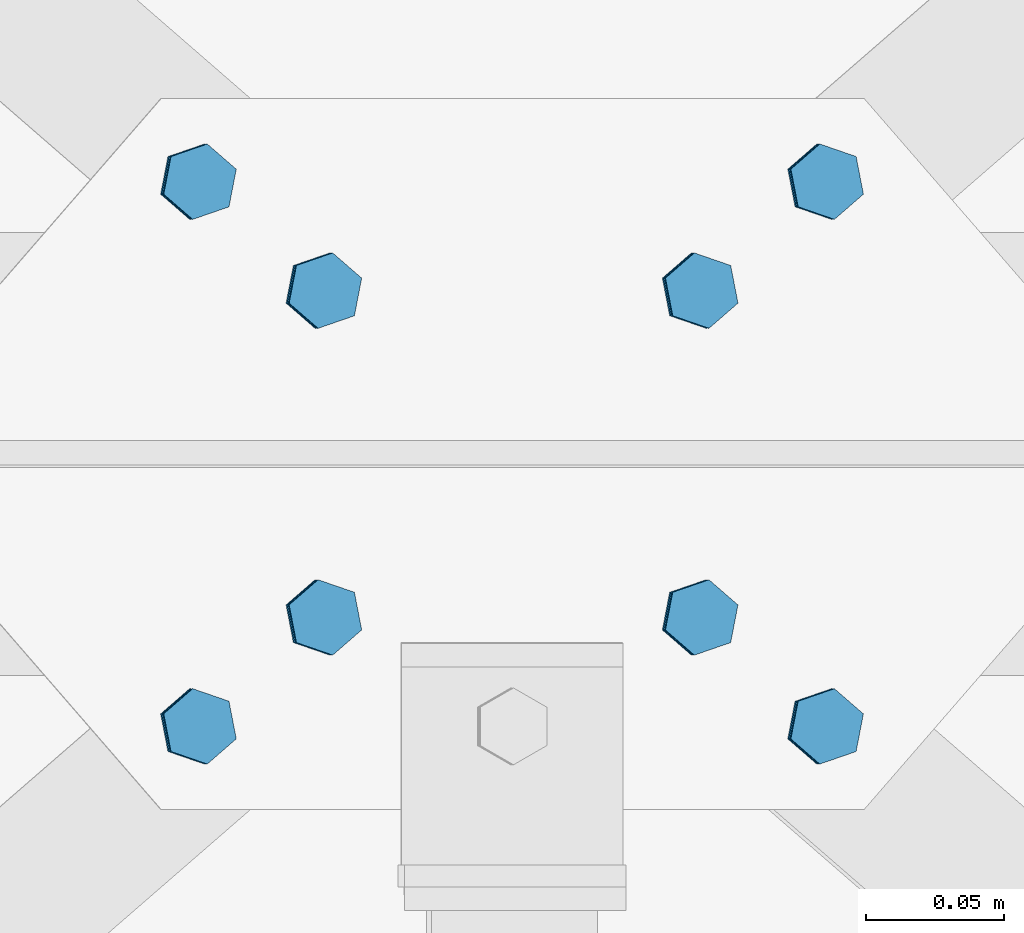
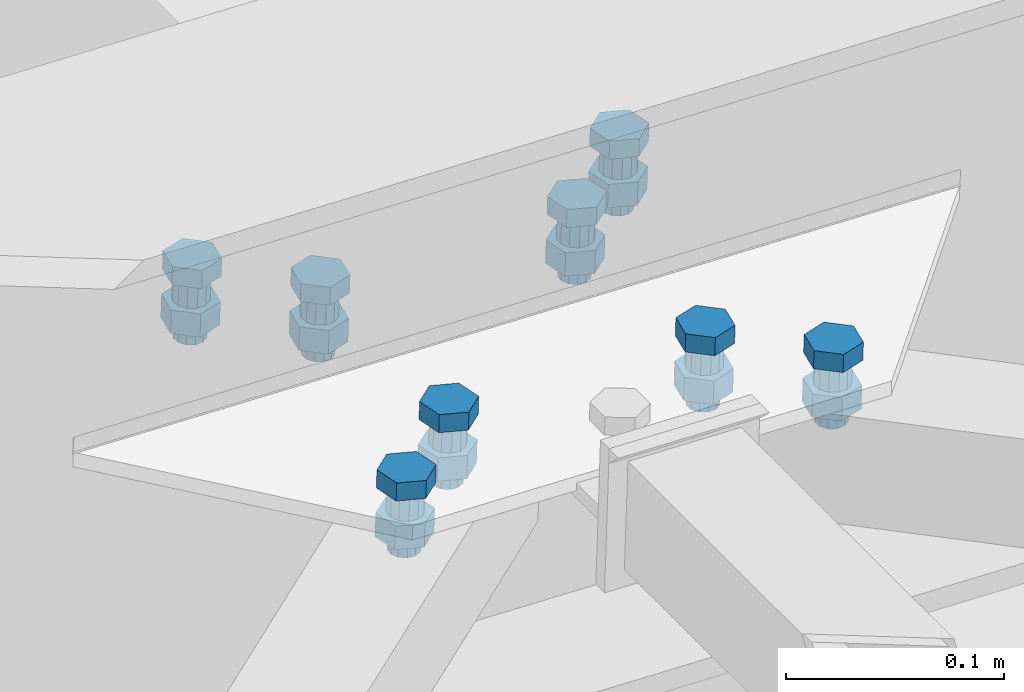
# One storey, part 230 of 3134: 4 mechanical fasteners, 4 elements without a shape of their own.
"""IFC2X3 building model written with IfcOpenShell, lengths in millimetres."""

from ifc_helpers import new_model, si_unit, frame, origin_with_axes, place, context, subcontext, project, spatial, faceted_brep, source, transform, mapped, material, type_object, element, aggregate, save


model = new_model("IFC2X3")

# Units and contexts
model_context = context("Model", 3, precision=1e-05, world=origin_with_axes())
body_context = subcontext(model_context, "Body", "Model", "MODEL_VIEW")
ifc_project = project(units=[si_unit("LENGTHUNIT", "METRE", prefix="MILLI"), si_unit("AREAUNIT", "SQUARE_METRE"), si_unit("VOLUMEUNIT", "CUBIC_METRE"), si_unit("MASSUNIT", "GRAM", prefix="KILO"), si_unit("TIMEUNIT", "SECOND"), si_unit("PLANEANGLEUNIT", "RADIAN"), si_unit("SOLIDANGLEUNIT", "STERADIAN"), si_unit("THERMODYNAMICTEMPERATUREUNIT", "DEGREE_CELSIUS"), si_unit("LUMINOUSINTENSITYUNIT", "LUMEN")], contexts=[model_context])

# Site, building, storey
site_placement = place(None, origin_with_axes())
site = spatial("IfcSite", under=ifc_project, at=site_placement, CompositionType="ELEMENT")
building_placement = place(site_placement, origin_with_axes())
building = spatial("IfcBuilding", under=site, at=building_placement, Name="Undefined", CompositionType="ELEMENT")
storey_placement = place(building_placement, origin_with_axes())
storey = spatial("IfcBuildingStorey", under=building, at=storey_placement, Name="Undefined", CompositionType="ELEMENT", Elevation=0.0)

# Assembly, mechanical fastener
assembly_1_placement = place(storey_placement, origin_with_axes())
assembly_1 = element("IfcElementAssembly", 1, at=assembly_1_placement, inside=storey, AssemblyPlace="NOTDEFINED", PredefinedType="RIGID_FRAME")
ifc_material = material(Name="8.8")
mechanical_fastener_type = type_object("IfcMechanicalFastenerType", Name="Bolt assembly")
shared_shape_1 = source(origin_with_axes(), body_context, "Body", "Brep", [
    faceted_brep([(13.856406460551, -14.0, 0.0), (6.92820323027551, -14.0, 12.0), (-6.92820323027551, -14.0, 12.0), (-13.856406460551, -14.0, 1.69692038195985e-15), (-6.92820323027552, -14.0, -12.0), (6.9282032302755, -14.0, -12.0), (6.9282032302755, -4.00000145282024, -12.0), (-6.92820323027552, -4.00000145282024, -12.0), (-13.856406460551, -4.00000145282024, 1.69692038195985e-15), (-6.92820323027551, -4.00000145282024, 12.0), (6.92820323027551, -4.00000145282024, 12.0), (13.856406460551, -4.00000145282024, 0.0), (8.0, -4.00000145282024, 0.0), (6.92820323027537, -4.00000145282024, 4.00000000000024), (3.99999999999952, -4.00000145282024, 6.92820323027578), (-8.29068785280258e-13, -4.00000145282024, 8.0), (-4.00000000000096, -4.00000145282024, 6.92820323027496), (-6.9282032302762, -4.00000145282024, 3.99999999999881), (-8.0, -4.00000145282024, -1.65813757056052e-12), (-6.92820323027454, -4.00000145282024, -4.00000000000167), (-3.99999999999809, -4.00000145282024, -6.92820323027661), (2.47832457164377e-12, -4.00000145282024, -8.0), (4.00000000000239, -4.00000145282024, -6.92820323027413), (6.92820323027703, -4.00000145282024, -3.99999999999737), (6.92820323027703, 31.0, -3.99999999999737), (4.00000000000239, 31.0, -6.92820323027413), (2.47832457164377e-12, 31.0, -8.0), (-3.99999999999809, 31.0, -6.92820323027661), (-6.92820323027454, 31.0, -4.00000000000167), (-8.0, 31.0, -1.65813757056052e-12), (-6.9282032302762, 31.0, 3.99999999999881), (-4.00000000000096, 31.0, 6.92820323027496), (-8.29068785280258e-13, 31.0, 8.0), (3.99999999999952, 31.0, 6.92820323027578), (6.92820323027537, 31.0, 4.00000000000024), (8.0, 31.0, 0.0), (13.856406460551, 9.99937456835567, 0.0), (6.92820323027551, 9.99937456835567, 12.0), (-6.92820323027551, 9.99937456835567, 12.0), (-13.856406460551, 9.99937456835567, 1.69692038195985e-15), (-6.92820323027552, 9.99937456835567, -12.0), (6.9282032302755, 9.99937456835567, -12.0), (6.9282032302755, 22.9993745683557, -12.0), (-6.92820323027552, 22.9993745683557, -12.0), (-13.856406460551, 22.9993745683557, 1.69692038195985e-15), (-6.92820323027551, 22.9993745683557, 12.0), (6.92820323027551, 22.9993745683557, 12.0), (13.856406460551, 22.9993745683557, 0.0)], [[[0, 1, 2, 3, 4, 5]], [[6, 7, 8, 9, 10, 11]], [[0, 11, 10, 1]], [[1, 10, 9, 2]], [[2, 9, 8, 3]], [[3, 8, 7, 4]], [[4, 7, 6, 5]], [[5, 6, 11, 0]], [[12, 13, 14, 15, 16, 17, 18, 19, 20, 21, 22, 23]], [[24, 25, 26, 27, 28, 29, 30, 31, 32, 33, 34, 35]], [[12, 35, 34, 13]], [[13, 34, 33, 14]], [[14, 33, 32, 15]], [[15, 32, 31, 16]], [[16, 31, 30, 17]], [[17, 30, 29, 18]], [[18, 29, 28, 19]], [[19, 28, 27, 20]], [[20, 27, 26, 21]], [[21, 26, 25, 22]], [[22, 25, 24, 23]], [[23, 24, 35, 12]], [[36, 37, 38, 39, 40, 41]], [[42, 43, 44, 45, 46, 47]], [[36, 47, 46, 37]], [[37, 46, 45, 38]], [[38, 45, 44, 39]], [[39, 44, 43, 40]], [[40, 43, 42, 41]], [[41, 42, 47, 36]]]),
    faceted_brep([(9.0, -3.9, 0.0), (7.79422863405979, -3.9, 4.50000000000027), (4.49999999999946, -3.9, 7.79422863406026), (-9.3270238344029e-13, -3.9, 9.0), (-4.50000000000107, -3.9, 7.79422863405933), (-7.79422863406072, -3.9, 4.49999999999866), (-9.0, -3.9, -1.86540476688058e-12), (-7.79422863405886, -3.9, -4.50000000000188), (-4.49999999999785, -3.9, -7.79422863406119), (2.78811514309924e-12, -3.9, -9.0), (4.50000000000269, -3.9, -7.7942286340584), (7.79422863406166, -3.9, -4.49999999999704), (7.79422863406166, 4.09999854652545, -4.49999999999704), (4.50000000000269, 4.09999854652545, -7.7942286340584), (2.78811514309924e-12, 4.09999854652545, -9.0), (-4.49999999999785, 4.09999854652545, -7.79422863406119), (-7.79422863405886, 4.09999854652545, -4.50000000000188), (-9.0, 4.09999854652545, -1.86540476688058e-12), (-7.79422863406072, 4.09999854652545, 4.49999999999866), (-4.50000000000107, 4.09999854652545, 7.79422863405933), (-9.3270238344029e-13, 4.09999854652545, 9.0), (4.49999999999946, 4.09999854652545, 7.79422863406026), (7.79422863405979, 4.09999854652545, 4.50000000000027), (9.0, 4.09999854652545, 0.0), (9.0, 3.89937456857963, 0.0), (7.79422863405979, 3.89937456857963, 4.50000000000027), (4.49999999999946, 3.89937456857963, 7.79422863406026), (-9.3270238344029e-13, 3.89937456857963, 9.0), (-4.50000000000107, 3.89937456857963, 7.79422863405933), (-7.79422863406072, 3.89937456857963, 4.49999999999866), (-9.0, 3.89937456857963, -1.86540476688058e-12), (-7.79422863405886, 3.89937456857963, -4.50000000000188), (-4.49999999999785, 3.89937456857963, -7.79422863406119), (2.78811514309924e-12, 3.89937456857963, -9.0), (4.50000000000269, 3.89937456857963, -7.7942286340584), (7.79422863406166, 3.89937456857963, -4.49999999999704), (7.79422863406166, 9.99937456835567, -4.49999999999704), (4.50000000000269, 9.99937456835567, -7.7942286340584), (2.78811514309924e-12, 9.99937456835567, -9.0), (-4.49999999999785, 9.99937456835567, -7.79422863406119), (-7.79422863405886, 9.99937456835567, -4.50000000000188), (-9.0, 9.99937456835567, -1.86540476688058e-12), (-7.79422863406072, 9.99937456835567, 4.49999999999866), (-4.50000000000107, 9.99937456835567, 7.79422863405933), (-9.3270238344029e-13, 9.99937456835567, 9.0), (4.49999999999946, 9.99937456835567, 7.79422863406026), (7.79422863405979, 9.99937456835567, 4.50000000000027), (9.0, 9.99937456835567, 0.0)], [[[0, 1, 2, 3, 4, 5, 6, 7, 8, 9, 10, 11]], [[12, 13, 14, 15, 16, 17, 18, 19, 20, 21, 22, 23]], [[0, 23, 22, 1]], [[1, 22, 21, 2]], [[2, 21, 20, 3]], [[3, 20, 19, 4]], [[4, 19, 18, 5]], [[5, 18, 17, 6]], [[6, 17, 16, 7]], [[7, 16, 15, 8]], [[8, 15, 14, 9]], [[9, 14, 13, 10]], [[10, 13, 12, 11]], [[11, 12, 23, 0]], [[24, 25, 26, 27, 28, 29, 30, 31, 32, 33, 34, 35]], [[36, 37, 38, 39, 40, 41, 42, 43, 44, 45, 46, 47]], [[24, 47, 46, 25]], [[25, 46, 45, 26]], [[26, 45, 44, 27]], [[27, 44, 43, 28]], [[28, 43, 42, 29]], [[29, 42, 41, 30]], [[30, 41, 40, 31]], [[31, 40, 39, 32]], [[32, 39, 38, 33]], [[33, 38, 37, 34]], [[34, 37, 36, 35]], [[35, 36, 47, 24]]]),
])
mechanical_fastener_1_placement = place(assembly_1_placement, frame((29474.4583795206, 52591.6643115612, 10125.3249286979), z_axis=(-0.655256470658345, -0.755133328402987, 0.0203129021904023), x_axis=(-0.754770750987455, 0.655571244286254, 0.0233978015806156)))
mechanical_fastener_1 = element("IfcMechanicalFastener", 2, at=mechanical_fastener_1_placement, type_object=mechanical_fastener_type, material=ifc_material, Name="Bolt assembly", NominalDiameter=16.0, NominalLength=35.0, context=body_context, shape_type="MappedRepresentation", body=[
    mapped(shared_shape_1, transform((0.0, 0.0, 0.0))),
    mapped(shared_shape_1, transform((59.9999999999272, 0.0, 5.40239852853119e-10))),
])
aggregate(assembly_1, [mechanical_fastener_1])

assembly_2_placement = place(storey_placement, origin_with_axes())
assembly_2 = element("IfcElementAssembly", 3, at=assembly_2_placement, inside=storey, AssemblyPlace="NOTDEFINED", PredefinedType="RIGID_FRAME")
shared_shape_2 = source(origin_with_axes(), body_context, "Body", "Brep", [
    faceted_brep([(13.856406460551, -14.0, 0.0), (6.92820323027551, -14.0, 12.0), (-6.92820323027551, -14.0, 12.0), (-13.856406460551, -14.0, 1.69692038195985e-15), (-6.92820323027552, -14.0, -12.0), (6.9282032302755, -14.0, -12.0), (6.9282032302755, -4.00000145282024, -12.0), (-6.92820323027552, -4.00000145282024, -12.0), (-13.856406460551, -4.00000145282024, 1.69692038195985e-15), (-6.92820323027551, -4.00000145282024, 12.0), (6.92820323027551, -4.00000145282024, 12.0), (13.856406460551, -4.00000145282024, 0.0), (8.0, -4.00000145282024, 0.0), (6.92820323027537, -4.00000145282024, 4.00000000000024), (3.99999999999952, -4.00000145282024, 6.92820323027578), (-8.29068785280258e-13, -4.00000145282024, 8.0), (-4.00000000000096, -4.00000145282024, 6.92820323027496), (-6.9282032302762, -4.00000145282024, 3.99999999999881), (-8.0, -4.00000145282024, -1.65813757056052e-12), (-6.92820323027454, -4.00000145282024, -4.00000000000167), (-3.99999999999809, -4.00000145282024, -6.92820323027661), (2.47832457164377e-12, -4.00000145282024, -8.0), (4.00000000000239, -4.00000145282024, -6.92820323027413), (6.92820323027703, -4.00000145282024, -3.99999999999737), (6.92820323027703, 31.0, -3.99999999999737), (4.00000000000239, 31.0, -6.92820323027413), (2.47832457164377e-12, 31.0, -8.0), (-3.99999999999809, 31.0, -6.92820323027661), (-6.92820323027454, 31.0, -4.00000000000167), (-8.0, 31.0, -1.65813757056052e-12), (-6.9282032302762, 31.0, 3.99999999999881), (-4.00000000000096, 31.0, 6.92820323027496), (-8.29068785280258e-13, 31.0, 8.0), (3.99999999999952, 31.0, 6.92820323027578), (6.92820323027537, 31.0, 4.00000000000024), (8.0, 31.0, 0.0), (13.856406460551, 9.99901118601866, 0.0), (6.92820323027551, 9.99901118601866, 12.0), (-6.92820323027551, 9.99901118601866, 12.0), (-13.856406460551, 9.99901118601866, 1.69692038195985e-15), (-6.92820323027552, 9.99901118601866, -12.0), (6.9282032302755, 9.99901118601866, -12.0), (6.9282032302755, 22.9990111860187, -12.0), (-6.92820323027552, 22.9990111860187, -12.0), (-13.856406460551, 22.9990111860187, 1.69692038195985e-15), (-6.92820323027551, 22.9990111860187, 12.0), (6.92820323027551, 22.9990111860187, 12.0), (13.856406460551, 22.9990111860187, 0.0)], [[[0, 1, 2, 3, 4, 5]], [[6, 7, 8, 9, 10, 11]], [[0, 11, 10, 1]], [[1, 10, 9, 2]], [[2, 9, 8, 3]], [[3, 8, 7, 4]], [[4, 7, 6, 5]], [[5, 6, 11, 0]], [[12, 13, 14, 15, 16, 17, 18, 19, 20, 21, 22, 23]], [[24, 25, 26, 27, 28, 29, 30, 31, 32, 33, 34, 35]], [[12, 35, 34, 13]], [[13, 34, 33, 14]], [[14, 33, 32, 15]], [[15, 32, 31, 16]], [[16, 31, 30, 17]], [[17, 30, 29, 18]], [[18, 29, 28, 19]], [[19, 28, 27, 20]], [[20, 27, 26, 21]], [[21, 26, 25, 22]], [[22, 25, 24, 23]], [[23, 24, 35, 12]], [[36, 37, 38, 39, 40, 41]], [[42, 43, 44, 45, 46, 47]], [[36, 47, 46, 37]], [[37, 46, 45, 38]], [[38, 45, 44, 39]], [[39, 44, 43, 40]], [[40, 43, 42, 41]], [[41, 42, 47, 36]]]),
    faceted_brep([(9.0, -3.9, 0.0), (7.79422863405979, -3.9, 4.50000000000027), (4.49999999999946, -3.9, 7.79422863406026), (-9.3270238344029e-13, -3.9, 9.0), (-4.50000000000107, -3.9, 7.79422863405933), (-7.79422863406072, -3.9, 4.49999999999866), (-9.0, -3.9, -1.86540476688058e-12), (-7.79422863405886, -3.9, -4.50000000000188), (-4.49999999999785, -3.9, -7.79422863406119), (2.78811514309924e-12, -3.9, -9.0), (4.50000000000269, -3.9, -7.7942286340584), (7.79422863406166, -3.9, -4.49999999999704), (7.79422863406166, 4.09999854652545, -4.49999999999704), (4.50000000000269, 4.09999854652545, -7.7942286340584), (2.78811514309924e-12, 4.09999854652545, -9.0), (-4.49999999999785, 4.09999854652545, -7.79422863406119), (-7.79422863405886, 4.09999854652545, -4.50000000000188), (-9.0, 4.09999854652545, -1.86540476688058e-12), (-7.79422863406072, 4.09999854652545, 4.49999999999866), (-4.50000000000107, 4.09999854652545, 7.79422863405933), (-9.3270238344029e-13, 4.09999854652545, 9.0), (4.49999999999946, 4.09999854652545, 7.79422863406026), (7.79422863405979, 4.09999854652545, 4.50000000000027), (9.0, 4.09999854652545, 0.0), (9.0, 3.8990111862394, 0.0), (7.79422863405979, 3.8990111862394, 4.50000000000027), (4.49999999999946, 3.8990111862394, 7.79422863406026), (-9.3270238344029e-13, 3.8990111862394, 9.0), (-4.50000000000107, 3.8990111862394, 7.79422863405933), (-7.79422863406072, 3.8990111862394, 4.49999999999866), (-9.0, 3.8990111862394, -1.86540476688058e-12), (-7.79422863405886, 3.8990111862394, -4.50000000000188), (-4.49999999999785, 3.8990111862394, -7.79422863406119), (2.78811514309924e-12, 3.8990111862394, -9.0), (4.50000000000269, 3.8990111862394, -7.7942286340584), (7.79422863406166, 3.8990111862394, -4.49999999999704), (7.79422863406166, 9.99901118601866, -4.49999999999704), (4.50000000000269, 9.99901118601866, -7.7942286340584), (2.78811514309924e-12, 9.99901118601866, -9.0), (-4.49999999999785, 9.99901118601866, -7.79422863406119), (-7.79422863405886, 9.99901118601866, -4.50000000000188), (-9.0, 9.99901118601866, -1.86540476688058e-12), (-7.79422863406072, 9.99901118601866, 4.49999999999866), (-4.50000000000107, 9.99901118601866, 7.79422863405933), (-9.3270238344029e-13, 9.99901118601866, 9.0), (4.49999999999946, 9.99901118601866, 7.79422863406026), (7.79422863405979, 9.99901118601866, 4.50000000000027), (9.0, 9.99901118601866, 0.0)], [[[0, 1, 2, 3, 4, 5, 6, 7, 8, 9, 10, 11]], [[12, 13, 14, 15, 16, 17, 18, 19, 20, 21, 22, 23]], [[0, 23, 22, 1]], [[1, 22, 21, 2]], [[2, 21, 20, 3]], [[3, 20, 19, 4]], [[4, 19, 18, 5]], [[5, 18, 17, 6]], [[6, 17, 16, 7]], [[7, 16, 15, 8]], [[8, 15, 14, 9]], [[9, 14, 13, 10]], [[10, 13, 12, 11]], [[11, 12, 23, 0]], [[24, 25, 26, 27, 28, 29, 30, 31, 32, 33, 34, 35]], [[36, 37, 38, 39, 40, 41, 42, 43, 44, 45, 46, 47]], [[24, 47, 46, 25]], [[25, 46, 45, 26]], [[26, 45, 44, 27]], [[27, 44, 43, 28]], [[28, 43, 42, 29]], [[29, 42, 41, 30]], [[30, 41, 40, 31]], [[31, 40, 39, 32]], [[32, 39, 38, 33]], [[33, 38, 37, 34]], [[34, 37, 36, 35]], [[35, 36, 47, 24]]]),
])
mechanical_fastener_2_placement = place(assembly_2_placement, frame((29248.0296353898, 52591.6729792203, 10132.3442197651), z_axis=(-0.655246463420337, 0.755142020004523, 0.0203126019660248), x_axis=(0.754779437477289, 0.655561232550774, -0.0233981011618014)))
mechanical_fastener_2 = element("IfcMechanicalFastener", 4, at=mechanical_fastener_2_placement, type_object=mechanical_fastener_type, material=ifc_material, Name="Bolt assembly", NominalDiameter=16.0, NominalLength=35.0, context=body_context, shape_type="MappedRepresentation", body=[
    mapped(shared_shape_2, transform((0.0, 0.0, 0.0))),
    mapped(shared_shape_2, transform((59.9999999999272, 0.0, 5.40239852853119e-10))),
])
aggregate(assembly_2, [mechanical_fastener_2])

assembly_3_placement = place(storey_placement, origin_with_axes())
assembly_3 = element("IfcElementAssembly", 5, at=assembly_3_placement, inside=storey, AssemblyPlace="NOTDEFINED", PredefinedType="RIGID_FRAME")
shared_shape_3 = source(origin_with_axes(), body_context, "Body", "Brep", [
    faceted_brep([(13.856406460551, -14.0, 0.0), (6.92820323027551, -14.0, 12.0), (-6.92820323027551, -14.0, 12.0), (-13.856406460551, -14.0, 1.69692038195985e-15), (-6.92820323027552, -14.0, -12.0), (6.9282032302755, -14.0, -12.0), (6.9282032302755, -4.00000145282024, -12.0), (-6.92820323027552, -4.00000145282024, -12.0), (-13.856406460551, -4.00000145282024, 1.69692038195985e-15), (-6.92820323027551, -4.00000145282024, 12.0), (6.92820323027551, -4.00000145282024, 12.0), (13.856406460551, -4.00000145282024, 0.0), (8.0, -4.00000145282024, 0.0), (6.92820323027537, -4.00000145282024, 4.00000000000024), (3.99999999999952, -4.00000145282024, 6.92820323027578), (-8.29068785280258e-13, -4.00000145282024, 8.0), (-4.00000000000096, -4.00000145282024, 6.92820323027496), (-6.9282032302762, -4.00000145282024, 3.99999999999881), (-8.0, -4.00000145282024, -1.65813757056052e-12), (-6.92820323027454, -4.00000145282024, -4.00000000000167), (-3.99999999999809, -4.00000145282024, -6.92820323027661), (2.47832457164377e-12, -4.00000145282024, -8.0), (4.00000000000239, -4.00000145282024, -6.92820323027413), (6.92820323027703, -4.00000145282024, -3.99999999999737), (6.92820323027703, 31.0, -3.99999999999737), (4.00000000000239, 31.0, -6.92820323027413), (2.47832457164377e-12, 31.0, -8.0), (-3.99999999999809, 31.0, -6.92820323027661), (-6.92820323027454, 31.0, -4.00000000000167), (-8.0, 31.0, -1.65813757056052e-12), (-6.9282032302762, 31.0, 3.99999999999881), (-4.00000000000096, 31.0, 6.92820323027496), (-8.29068785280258e-13, 31.0, 8.0), (3.99999999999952, 31.0, 6.92820323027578), (6.92820323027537, 31.0, 4.00000000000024), (8.0, 31.0, 0.0), (13.856406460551, 9.99999995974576, 0.0), (6.92820323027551, 9.99999995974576, 12.0), (-6.92820323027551, 9.99999995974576, 12.0), (-13.856406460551, 9.99999995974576, 1.69692038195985e-15), (-6.92820323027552, 9.99999995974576, -12.0), (6.9282032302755, 9.99999995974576, -12.0), (6.9282032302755, 22.9999913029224, -12.0), (-6.92820323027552, 22.9999913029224, -12.0), (-13.856406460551, 22.9999913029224, 1.69692038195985e-15), (-6.92820323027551, 22.9999913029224, 12.0), (6.92820323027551, 22.9999913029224, 12.0), (13.856406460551, 22.9999913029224, 0.0)], [[[0, 1, 2, 3, 4, 5]], [[6, 7, 8, 9, 10, 11]], [[0, 11, 10, 1]], [[1, 10, 9, 2]], [[2, 9, 8, 3]], [[3, 8, 7, 4]], [[4, 7, 6, 5]], [[5, 6, 11, 0]], [[12, 13, 14, 15, 16, 17, 18, 19, 20, 21, 22, 23]], [[24, 25, 26, 27, 28, 29, 30, 31, 32, 33, 34, 35]], [[12, 35, 34, 13]], [[13, 34, 33, 14]], [[14, 33, 32, 15]], [[15, 32, 31, 16]], [[16, 31, 30, 17]], [[17, 30, 29, 18]], [[18, 29, 28, 19]], [[19, 28, 27, 20]], [[20, 27, 26, 21]], [[21, 26, 25, 22]], [[22, 25, 24, 23]], [[23, 24, 35, 12]], [[36, 37, 38, 39, 40, 41]], [[42, 43, 44, 45, 46, 47]], [[36, 47, 46, 37]], [[37, 46, 45, 38]], [[38, 45, 44, 39]], [[39, 44, 43, 40]], [[40, 43, 42, 41]], [[41, 42, 47, 36]]]),
    faceted_brep([(9.0, -3.9, 0.0), (7.79422863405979, -3.9, 4.50000000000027), (4.49999999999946, -3.9, 7.79422863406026), (-9.3270238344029e-13, -3.9, 9.0), (-4.50000000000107, -3.9, 7.79422863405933), (-7.79422863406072, -3.9, 4.49999999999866), (-9.0, -3.9, -1.86540476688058e-12), (-7.79422863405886, -3.9, -4.50000000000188), (-4.49999999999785, -3.9, -7.79422863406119), (2.78811514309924e-12, -3.9, -9.0), (4.50000000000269, -3.9, -7.7942286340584), (7.79422863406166, -3.9, -4.49999999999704), (7.79422863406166, 4.09999854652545, -4.49999999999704), (4.50000000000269, 4.09999854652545, -7.7942286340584), (2.78811514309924e-12, 4.09999854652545, -9.0), (-4.49999999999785, 4.09999854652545, -7.79422863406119), (-7.79422863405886, 4.09999854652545, -4.50000000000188), (-9.0, 4.09999854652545, -1.86540476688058e-12), (-7.79422863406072, 4.09999854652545, 4.49999999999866), (-4.50000000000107, 4.09999854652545, 7.79422863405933), (-9.3270238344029e-13, 4.09999854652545, 9.0), (4.49999999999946, 4.09999854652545, 7.79422863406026), (7.79422863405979, 4.09999854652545, 4.50000000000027), (9.0, 4.09999854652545, 0.0), (9.0, 3.9, 0.0), (7.79422863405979, 3.9, 4.50000000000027), (4.49999999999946, 3.9, 7.79422863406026), (-9.3270238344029e-13, 3.9, 9.0), (-4.50000000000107, 3.9, 7.79422863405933), (-7.79422863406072, 3.9, 4.49999999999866), (-9.0, 3.9, -1.86540476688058e-12), (-7.79422863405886, 3.9, -4.50000000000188), (-4.49999999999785, 3.9, -7.79422863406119), (2.78811514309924e-12, 3.9, -9.0), (4.50000000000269, 3.9, -7.7942286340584), (7.79422863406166, 3.9, -4.49999999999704), (7.79422863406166, 9.99999995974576, -4.49999999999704), (4.50000000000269, 9.99999995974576, -7.7942286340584), (2.78811514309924e-12, 9.99999995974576, -9.0), (-4.49999999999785, 9.99999995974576, -7.79422863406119), (-7.79422863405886, 9.99999995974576, -4.50000000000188), (-9.0, 9.99999995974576, -1.86540476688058e-12), (-7.79422863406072, 9.99999995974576, 4.49999999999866), (-4.50000000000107, 9.99999995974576, 7.79422863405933), (-9.3270238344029e-13, 9.99999995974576, 9.0), (4.49999999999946, 9.99999995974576, 7.79422863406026), (7.79422863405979, 9.99999995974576, 4.50000000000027), (9.0, 9.99999995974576, 0.0)], [[[0, 1, 2, 3, 4, 5, 6, 7, 8, 9, 10, 11]], [[12, 13, 14, 15, 16, 17, 18, 19, 20, 21, 22, 23]], [[0, 23, 22, 1]], [[1, 22, 21, 2]], [[2, 21, 20, 3]], [[3, 20, 19, 4]], [[4, 19, 18, 5]], [[5, 18, 17, 6]], [[6, 17, 16, 7]], [[7, 16, 15, 8]], [[8, 15, 14, 9]], [[9, 14, 13, 10]], [[10, 13, 12, 11]], [[11, 12, 23, 0]], [[24, 25, 26, 27, 28, 29, 30, 31, 32, 33, 34, 35]], [[36, 37, 38, 39, 40, 41, 42, 43, 44, 45, 46, 47]], [[24, 47, 46, 25]], [[25, 46, 45, 26]], [[26, 45, 44, 27]], [[27, 44, 43, 28]], [[28, 43, 42, 29]], [[29, 42, 41, 30]], [[30, 41, 40, 31]], [[31, 40, 39, 32]], [[32, 39, 38, 33]], [[33, 38, 37, 34]], [[34, 37, 36, 35]], [[35, 36, 47, 24]]]),
])
mechanical_fastener_3_placement = place(assembly_3_placement, frame((29248.0296353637, 52788.3270207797, 10132.3442197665), z_axis=(0.655246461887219, 0.755142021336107, -0.020312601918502), x_axis=(0.754779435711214, -0.655561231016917, -0.0233982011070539)))
mechanical_fastener_3 = element("IfcMechanicalFastener", 6, at=mechanical_fastener_3_placement, type_object=mechanical_fastener_type, material=ifc_material, Name="Bolt assembly", NominalDiameter=16.0, NominalLength=35.0, context=body_context, shape_type="MappedRepresentation", body=[
    mapped(shared_shape_3, transform((0.0, 0.0, 0.0))),
    mapped(shared_shape_3, transform((59.9999999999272, 0.0, 5.40239852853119e-10))),
])
aggregate(assembly_3, [mechanical_fastener_3])

assembly_4_placement = place(storey_placement, origin_with_axes())
assembly_4 = element("IfcElementAssembly", 7, at=assembly_4_placement, inside=storey, Name="IPE330", AssemblyPlace="NOTDEFINED", PredefinedType="RIGID_FRAME")
shared_shape_4 = source(origin_with_axes(), body_context, "Body", "Brep", [
    faceted_brep([(13.856406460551, -14.0, 0.0), (6.92820323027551, -14.0, 12.0), (-6.92820323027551, -14.0, 12.0), (-13.856406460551, -14.0, 1.69692038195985e-15), (-6.92820323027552, -14.0, -12.0), (6.9282032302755, -14.0, -12.0), (6.9282032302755, -4.00000145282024, -12.0), (-6.92820323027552, -4.00000145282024, -12.0), (-13.856406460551, -4.00000145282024, 1.69692038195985e-15), (-6.92820323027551, -4.00000145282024, 12.0), (6.92820323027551, -4.00000145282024, 12.0), (13.856406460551, -4.00000145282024, 0.0), (8.0, -4.00000145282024, 0.0), (6.92820323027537, -4.00000145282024, 4.00000000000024), (3.99999999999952, -4.00000145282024, 6.92820323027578), (-8.29068785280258e-13, -4.00000145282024, 8.0), (-4.00000000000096, -4.00000145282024, 6.92820323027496), (-6.9282032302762, -4.00000145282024, 3.99999999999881), (-8.0, -4.00000145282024, -1.65813757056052e-12), (-6.92820323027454, -4.00000145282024, -4.00000000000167), (-3.99999999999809, -4.00000145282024, -6.92820323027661), (2.47832457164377e-12, -4.00000145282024, -8.0), (4.00000000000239, -4.00000145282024, -6.92820323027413), (6.92820323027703, -4.00000145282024, -3.99999999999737), (6.92820323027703, 31.0, -3.99999999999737), (4.00000000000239, 31.0, -6.92820323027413), (2.47832457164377e-12, 31.0, -8.0), (-3.99999999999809, 31.0, -6.92820323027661), (-6.92820323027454, 31.0, -4.00000000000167), (-8.0, 31.0, -1.65813757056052e-12), (-6.9282032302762, 31.0, 3.99999999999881), (-4.00000000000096, 31.0, 6.92820323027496), (-8.29068785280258e-13, 31.0, 8.0), (3.99999999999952, 31.0, 6.92820323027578), (6.92820323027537, 31.0, 4.00000000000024), (8.0, 31.0, 0.0), (13.856406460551, 10.0000943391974, 0.0), (6.92820323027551, 10.0000943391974, 12.0), (-6.92820323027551, 10.0000943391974, 12.0), (-13.856406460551, 10.0000943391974, 1.69692038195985e-15), (-6.92820323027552, 10.0000943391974, -12.0), (6.9282032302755, 10.0000943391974, -12.0), (6.9282032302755, 23.0000943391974, -12.0), (-6.92820323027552, 23.0000943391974, -12.0), (-13.856406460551, 23.0000943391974, 1.69692038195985e-15), (-6.92820323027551, 23.0000943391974, 12.0), (6.92820323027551, 23.0000943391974, 12.0), (13.856406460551, 23.0000943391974, 0.0)], [[[0, 1, 2, 3, 4, 5]], [[6, 7, 8, 9, 10, 11]], [[0, 11, 10, 1]], [[1, 10, 9, 2]], [[2, 9, 8, 3]], [[3, 8, 7, 4]], [[4, 7, 6, 5]], [[5, 6, 11, 0]], [[12, 13, 14, 15, 16, 17, 18, 19, 20, 21, 22, 23]], [[24, 25, 26, 27, 28, 29, 30, 31, 32, 33, 34, 35]], [[12, 35, 34, 13]], [[13, 34, 33, 14]], [[14, 33, 32, 15]], [[15, 32, 31, 16]], [[16, 31, 30, 17]], [[17, 30, 29, 18]], [[18, 29, 28, 19]], [[19, 28, 27, 20]], [[20, 27, 26, 21]], [[21, 26, 25, 22]], [[22, 25, 24, 23]], [[23, 24, 35, 12]], [[36, 37, 38, 39, 40, 41]], [[42, 43, 44, 45, 46, 47]], [[36, 47, 46, 37]], [[37, 46, 45, 38]], [[38, 45, 44, 39]], [[39, 44, 43, 40]], [[40, 43, 42, 41]], [[41, 42, 47, 36]]]),
    faceted_brep([(9.0, 3.90009433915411, 0.0), (7.79422863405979, 3.90009433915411, 4.50000000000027), (4.49999999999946, 3.90009433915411, 7.79422863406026), (-9.3270238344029e-13, 3.90009433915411, 9.0), (-4.50000000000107, 3.90009433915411, 7.79422863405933), (-7.79422863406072, 3.90009433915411, 4.49999999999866), (-9.0, 3.90009433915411, -1.86540476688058e-12), (-7.79422863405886, 3.90009433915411, -4.50000000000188), (-4.49999999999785, 3.90009433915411, -7.79422863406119), (2.78811514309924e-12, 3.90009433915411, -9.0), (4.50000000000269, 3.90009433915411, -7.7942286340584), (7.79422863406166, 3.90009433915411, -4.49999999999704), (7.79422863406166, 10.0000943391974, -4.49999999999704), (4.50000000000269, 10.0000943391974, -7.7942286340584), (2.78811514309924e-12, 10.0000943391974, -9.0), (-4.49999999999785, 10.0000943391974, -7.79422863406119), (-7.79422863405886, 10.0000943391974, -4.50000000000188), (-9.0, 10.0000943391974, -1.86540476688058e-12), (-7.79422863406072, 10.0000943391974, 4.49999999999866), (-4.50000000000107, 10.0000943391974, 7.79422863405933), (-9.3270238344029e-13, 10.0000943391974, 9.0), (4.49999999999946, 10.0000943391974, 7.79422863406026), (7.79422863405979, 10.0000943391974, 4.50000000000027), (9.0, 10.0000943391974, 0.0), (9.0, -3.9, 0.0), (7.79422863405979, -3.9, 4.50000000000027), (4.49999999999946, -3.9, 7.79422863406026), (-9.3270238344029e-13, -3.9, 9.0), (-4.50000000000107, -3.9, 7.79422863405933), (-7.79422863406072, -3.9, 4.49999999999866), (-9.0, -3.9, -1.86540476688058e-12), (-7.79422863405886, -3.9, -4.50000000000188), (-4.49999999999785, -3.9, -7.79422863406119), (2.78811514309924e-12, -3.9, -9.0), (4.50000000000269, -3.9, -7.7942286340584), (7.79422863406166, -3.9, -4.49999999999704), (7.79422863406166, 4.09999854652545, -4.49999999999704), (4.50000000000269, 4.09999854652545, -7.7942286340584), (2.78811514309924e-12, 4.09999854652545, -9.0), (-4.49999999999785, 4.09999854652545, -7.79422863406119), (-7.79422863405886, 4.09999854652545, -4.50000000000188), (-9.0, 4.09999854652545, -1.86540476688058e-12), (-7.79422863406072, 4.09999854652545, 4.49999999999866), (-4.50000000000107, 4.09999854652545, 7.79422863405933), (-9.3270238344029e-13, 4.09999854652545, 9.0), (4.49999999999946, 4.09999854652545, 7.79422863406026), (7.79422863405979, 4.09999854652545, 4.50000000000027), (9.0, 4.09999854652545, 0.0)], [[[0, 1, 2, 3, 4, 5, 6, 7, 8, 9, 10, 11]], [[12, 13, 14, 15, 16, 17, 18, 19, 20, 21, 22, 23]], [[0, 23, 22, 1]], [[1, 22, 21, 2]], [[2, 21, 20, 3]], [[3, 20, 19, 4]], [[4, 19, 18, 5]], [[5, 18, 17, 6]], [[6, 17, 16, 7]], [[7, 16, 15, 8]], [[8, 15, 14, 9]], [[9, 14, 13, 10]], [[10, 13, 12, 11]], [[11, 12, 23, 0]], [[24, 25, 26, 27, 28, 29, 30, 31, 32, 33, 34, 35]], [[36, 37, 38, 39, 40, 41, 42, 43, 44, 45, 46, 47]], [[24, 47, 46, 25]], [[25, 46, 45, 26]], [[26, 45, 44, 27]], [[27, 44, 43, 28]], [[28, 43, 42, 29]], [[29, 42, 41, 30]], [[30, 41, 40, 31]], [[31, 40, 39, 32]], [[32, 39, 38, 33]], [[33, 38, 37, 34]], [[34, 37, 36, 35]], [[35, 36, 47, 24]]]),
])
mechanical_fastener_4_placement = place(assembly_4_placement, frame((29429.1821308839, 52749.0014123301, 10126.7284924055), z_axis=(-0.65522676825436, 0.755159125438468, 0.0203120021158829), x_axis=(0.754796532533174, 0.655541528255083, -0.0233987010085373)))
mechanical_fastener_4 = element("IfcMechanicalFastener", 8, at=mechanical_fastener_4_placement, type_object=mechanical_fastener_type, material=ifc_material, Name="Bolt assembly", NominalDiameter=16.0, NominalLength=35.0, context=body_context, shape_type="MappedRepresentation", body=[
    mapped(shared_shape_4, transform((0.0, 0.0, 0.0))),
    mapped(shared_shape_4, transform((59.9999999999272, 0.0, 5.40239852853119e-10))),
])
aggregate(assembly_4, [mechanical_fastener_4])

save(model, "model.ifc")
